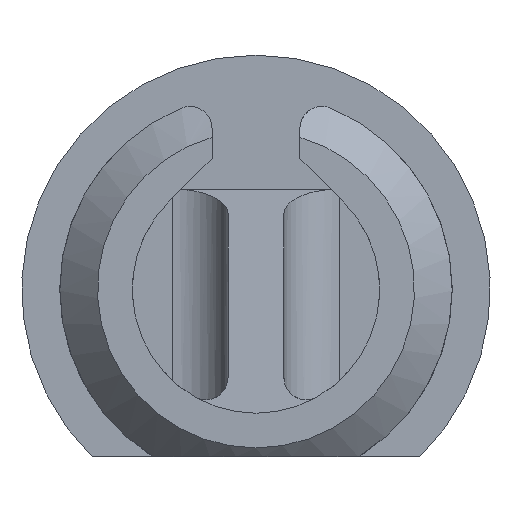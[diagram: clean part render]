
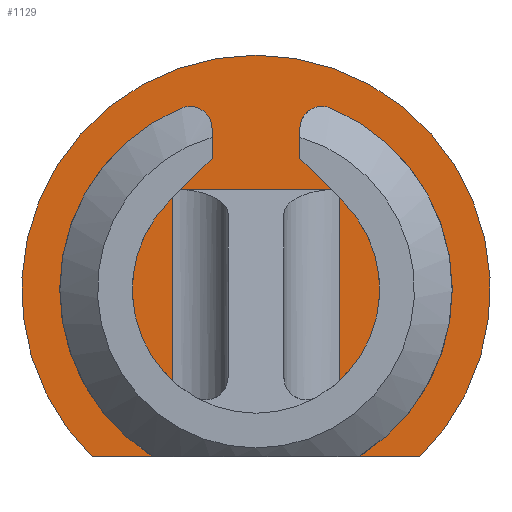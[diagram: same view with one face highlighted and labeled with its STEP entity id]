
A CAD part, front view. The second image highlights one B-rep face of the part: STEP entity #1129.
In plain terms, the highlighted planar face has unit normal (0, -1, 0).
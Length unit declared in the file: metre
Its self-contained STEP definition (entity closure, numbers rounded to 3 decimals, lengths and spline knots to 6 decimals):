
#39=PLANE('',#1242);
#62=CIRCLE('',#1184,0.013335);
#88=CIRCLE('',#1229,0.011166);
#96=CIRCLE('',#1240,0.013335);
#98=CIRCLE('',#1243,0.00127);
#99=CIRCLE('',#1244,0.011166);
#100=CIRCLE('',#1245,0.00127);
#129=LINE('',#1763,#219);
#166=LINE('',#1902,#256);
#167=LINE('',#1904,#257);
#168=LINE('',#1906,#258);
#169=LINE('',#1908,#259);
#170=LINE('',#1911,#260);
#171=LINE('',#1912,#261);
#219=VECTOR('',#1369,1.);
#256=VECTOR('',#1494,1.);
#257=VECTOR('',#1495,1.);
#258=VECTOR('',#1496,1.);
#259=VECTOR('',#1497,1.);
#260=VECTOR('',#1500,1.);
#261=VECTOR('',#1501,1.);
#429=ORIENTED_EDGE('',*,*,#685,.T.);
#430=ORIENTED_EDGE('',*,*,#751,.T.);
#431=ORIENTED_EDGE('',*,*,#752,.F.);
#432=ORIENTED_EDGE('',*,*,#753,.T.);
#433=ORIENTED_EDGE('',*,*,#754,.T.);
#434=ORIENTED_EDGE('',*,*,#755,.T.);
#435=ORIENTED_EDGE('',*,*,#734,.F.);
#436=ORIENTED_EDGE('',*,*,#756,.T.);
#437=ORIENTED_EDGE('',*,*,#748,.T.);
#438=ORIENTED_EDGE('',*,*,#663,.T.);
#439=ORIENTED_EDGE('',*,*,#757,.T.);
#440=ORIENTED_EDGE('',*,*,#758,.F.);
#441=ORIENTED_EDGE('',*,*,#759,.T.);
#663=EDGE_CURVE('',#840,#841,#62,.T.);
#685=EDGE_CURVE('',#860,#859,#129,.T.);
#734=EDGE_CURVE('',#896,#897,#88,.T.);
#748=EDGE_CURVE('',#908,#840,#96,.T.);
#751=EDGE_CURVE('',#859,#910,#166,.F.);
#752=EDGE_CURVE('',#911,#910,#167,.T.);
#753=EDGE_CURVE('',#911,#912,#168,.T.);
#754=EDGE_CURVE('',#912,#913,#169,.T.);
#755=EDGE_CURVE('',#913,#897,#98,.F.);
#756=EDGE_CURVE('',#896,#908,#170,.T.);
#757=EDGE_CURVE('',#841,#914,#171,.T.);
#758=EDGE_CURVE('',#915,#914,#99,.T.);
#759=EDGE_CURVE('',#915,#860,#100,.F.);
#840=VERTEX_POINT('',#1714);
#841=VERTEX_POINT('',#1715);
#859=VERTEX_POINT('',#1762);
#860=VERTEX_POINT('',#1764);
#896=VERTEX_POINT('',#1868);
#897=VERTEX_POINT('',#1869);
#908=VERTEX_POINT('',#1897);
#910=VERTEX_POINT('',#1903);
#911=VERTEX_POINT('',#1905);
#912=VERTEX_POINT('',#1907);
#913=VERTEX_POINT('',#1909);
#914=VERTEX_POINT('',#1913);
#915=VERTEX_POINT('',#1915);
#985=EDGE_LOOP('',(#429,#430,#431,#432,#433,#434,#435,#436,#437,#438,#439,
#440,#441));
#1043=FACE_BOUND('',#985,.T.);
#1129=ADVANCED_FACE('',(#1043),#39,.T.);
#1184=AXIS2_PLACEMENT_3D('',#1713,#1329,#1330);
#1229=AXIS2_PLACEMENT_3D('',#1867,#1459,#1460);
#1240=AXIS2_PLACEMENT_3D('',#1896,#1487,#1488);
#1242=AXIS2_PLACEMENT_3D('',#1901,#1492,#1493);
#1243=AXIS2_PLACEMENT_3D('',#1910,#1498,#1499);
#1244=AXIS2_PLACEMENT_3D('',#1914,#1502,#1503);
#1245=AXIS2_PLACEMENT_3D('',#1916,#1504,#1505);
#1329=DIRECTION('',(0.,-1.,0.));
#1330=DIRECTION('',(0.,0.,-1.));
#1369=DIRECTION('',(1.,0.,0.));
#1459=DIRECTION('',(0.,-1.,0.));
#1460=DIRECTION('',(0.,0.,-1.));
#1487=DIRECTION('',(0.,-1.,0.));
#1488=DIRECTION('',(0.,0.,-1.));
#1492=DIRECTION('',(0.,-1.,0.));
#1493=DIRECTION('',(1.,0.,0.));
#1494=DIRECTION('',(0.,0.,-1.));
#1495=DIRECTION('',(-1.,0.,0.));
#1496=DIRECTION('',(0.,0.,-1.));
#1497=DIRECTION('',(1.,0.,0.));
#1498=DIRECTION('',(0.,-1.,0.));
#1499=DIRECTION('',(0.,0.,-1.));
#1500=DIRECTION('',(1.,0.,0.));
#1501=DIRECTION('',(1.,0.,0.));
#1502=DIRECTION('',(0.,-1.,0.));
#1503=DIRECTION('',(0.,0.,-1.));
#1504=DIRECTION('',(0.,-1.,0.));
#1505=DIRECTION('',(0.,0.,-1.));
#1713=CARTESIAN_POINT('',(0.,-0.001905,0.));
#1714=CARTESIAN_POINT('',(0.,-0.001905,0.013335));
#1715=CARTESIAN_POINT('',(-0.009333,-0.001905,-0.009525));
#1762=CARTESIAN_POINT('',(-0.004763,-0.001905,-0.006985));
#1763=CARTESIAN_POINT('',(0.,-0.001905,-0.006985));
#1764=CARTESIAN_POINT('',(-0.005458,-0.001905,-0.006985));
#1867=CARTESIAN_POINT('',(0.,-0.001905,0.));
#1868=CARTESIAN_POINT('',(0.005827,-0.001905,-0.009525));
#1869=CARTESIAN_POINT('',(0.006158,-0.001905,-0.009314));
#1896=CARTESIAN_POINT('',(0.,-0.001905,0.));
#1897=CARTESIAN_POINT('',(0.009333,-0.001905,-0.009525));
#1901=CARTESIAN_POINT('',(0.,-0.001905,0.));
#1902=CARTESIAN_POINT('',(-0.004763,-0.001905,0.));
#1903=CARTESIAN_POINT('',(-0.004763,-0.001905,0.005715));
#1904=CARTESIAN_POINT('',(0.001588,-0.001905,0.005715));
#1905=CARTESIAN_POINT('',(0.004763,-0.001905,0.005715));
#1906=CARTESIAN_POINT('',(0.004763,-0.001905,-0.006985));
#1907=CARTESIAN_POINT('',(0.004763,-0.001905,-0.006985));
#1908=CARTESIAN_POINT('',(0.,-0.001905,-0.006985));
#1909=CARTESIAN_POINT('',(0.005458,-0.001905,-0.006985));
#1910=CARTESIAN_POINT('',(0.005458,-0.001905,-0.008255));
#1911=CARTESIAN_POINT('',(0.006924,-0.001905,-0.009525));
#1912=CARTESIAN_POINT('',(-0.006924,-0.001905,-0.009525));
#1913=CARTESIAN_POINT('',(-0.005827,-0.001905,-0.009525));
#1914=CARTESIAN_POINT('',(0.,-0.001905,0.));
#1915=CARTESIAN_POINT('',(-0.006158,-0.001905,-0.009314));
#1916=CARTESIAN_POINT('',(-0.005458,-0.001905,-0.008255));
